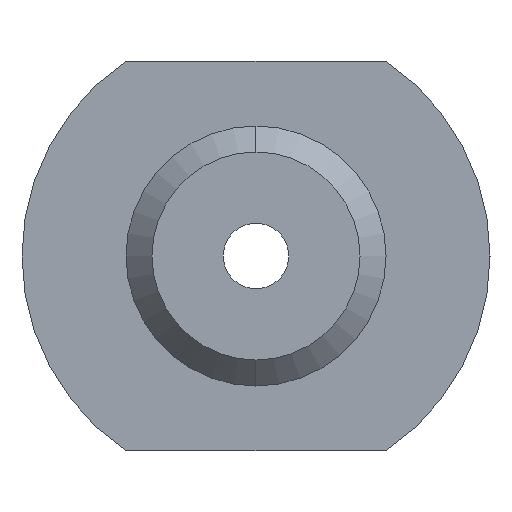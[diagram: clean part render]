
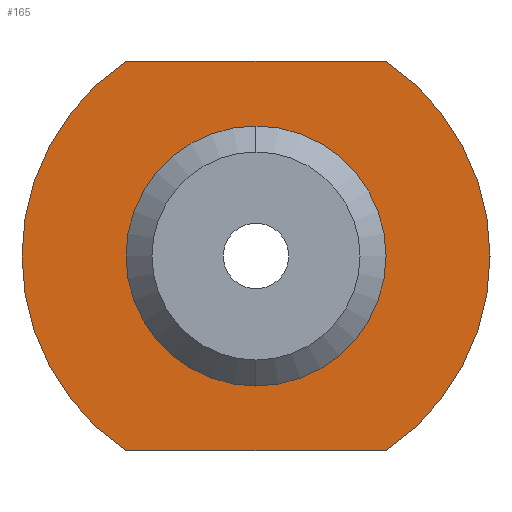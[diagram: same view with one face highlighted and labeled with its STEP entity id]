
A CAD part, left-side view. The second image highlights one B-rep face of the part: STEP entity #165.
In plain terms, the highlighted planar face has unit normal (-1, 0, 0).
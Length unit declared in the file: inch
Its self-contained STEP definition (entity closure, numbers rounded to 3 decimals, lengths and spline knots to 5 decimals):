
#19 = EDGE_CURVE ( 'NONE', #880, #561, #277, .T. ) ;
#44 = FACE_OUTER_BOUND ( 'NONE', #410, .T. ) ;
#76 = VECTOR ( 'NONE', #724, 39.37008 ) ;
#80 = EDGE_CURVE ( 'NONE', #88, #799, #292, .T. ) ;
#88 = VERTEX_POINT ( 'NONE', #797 ) ;
#96 = CARTESIAN_POINT ( 'NONE',  ( 0., 0., 0. ) ) ;
#103 = DIRECTION ( 'NONE',  ( -1., 0., 0. ) ) ;
#119 = AXIS2_PLACEMENT_3D ( 'NONE', #96, #543, #944 ) ;
#126 = DIRECTION ( 'NONE',  ( 0., 0., 1. ) ) ;
#134 = CARTESIAN_POINT ( 'NONE',  ( 0., 0.12437, 0.1875 ) ) ;
#165 = ADVANCED_FACE ( 'NONE', ( #44, #977 ), #1060, .T. ) ;
#176 = ORIENTED_EDGE ( 'NONE', *, *, #906, .T. ) ;
#187 = DIRECTION ( 'NONE',  ( 0., -1., 0. ) ) ;
#241 = DIRECTION ( 'NONE',  ( 0., 0., 1. ) ) ;
#275 = CARTESIAN_POINT ( 'NONE',  ( 0., 0.12437, -0.1875 ) ) ;
#277 = LINE ( 'NONE', #1050, #450 ) ;
#278 = EDGE_CURVE ( 'NONE', #1062, #1077, #913, .T. ) ;
#292 = CIRCLE ( 'NONE', #896, 0.1065 ) ;
#336 = CIRCLE ( 'NONE', #119, 0.225 ) ;
#353 = AXIS2_PLACEMENT_3D ( 'NONE', #435, #103, #355 ) ;
#355 = DIRECTION ( 'NONE',  ( 0., 0., 1. ) ) ;
#399 = CARTESIAN_POINT ( 'NONE',  ( 0., 0., 0. ) ) ;
#410 = EDGE_LOOP ( 'NONE', ( #584, #716, #745, #176 ) ) ;
#435 = CARTESIAN_POINT ( 'NONE',  ( 0., 0., 0. ) ) ;
#450 = VECTOR ( 'NONE', #187, 39.37008 ) ;
#456 = DIRECTION ( 'NONE',  ( 0., 0., 1. ) ) ;
#472 = DIRECTION ( 'NONE',  ( -1., 0., 0. ) ) ;
#537 = EDGE_CURVE ( 'NONE', #561, #1062, #832, .T. ) ;
#543 = DIRECTION ( 'NONE',  ( -1., 0., 0. ) ) ;
#561 = VERTEX_POINT ( 'NONE', #957 ) ;
#584 = ORIENTED_EDGE ( 'NONE', *, *, #19, .T. ) ;
#607 = EDGE_CURVE ( 'NONE', #799, #88, #690, .T. ) ;
#610 = EDGE_LOOP ( 'NONE', ( #740, #836 ) ) ;
#621 = CARTESIAN_POINT ( 'NONE',  ( 0., 0., 0. ) ) ;
#634 = CARTESIAN_POINT ( 'NONE',  ( 0., -0.12437, 0.1875 ) ) ;
#647 = AXIS2_PLACEMENT_3D ( 'NONE', #908, #472, #241 ) ;
#690 = CIRCLE ( 'NONE', #1073, 0.1065 ) ;
#716 = ORIENTED_EDGE ( 'NONE', *, *, #537, .T. ) ;
#724 = DIRECTION ( 'NONE',  ( 0., 1., 0. ) ) ;
#733 = DIRECTION ( 'NONE',  ( -1., 0., 0. ) ) ;
#740 = ORIENTED_EDGE ( 'NONE', *, *, #607, .F. ) ;
#745 = ORIENTED_EDGE ( 'NONE', *, *, #278, .T. ) ;
#797 = CARTESIAN_POINT ( 'NONE',  ( 0., 0., -0.1065 ) ) ;
#799 = VERTEX_POINT ( 'NONE', #1089 ) ;
#832 = CIRCLE ( 'NONE', #353, 0.225 ) ;
#836 = ORIENTED_EDGE ( 'NONE', *, *, #80, .F. ) ;
#875 = DIRECTION ( 'NONE',  ( -1., 0., 0. ) ) ;
#880 = VERTEX_POINT ( 'NONE', #275 ) ;
#896 = AXIS2_PLACEMENT_3D ( 'NONE', #621, #875, #456 ) ;
#904 = CARTESIAN_POINT ( 'NONE',  ( 0., 0.12437, 0.1875 ) ) ;
#906 = EDGE_CURVE ( 'NONE', #1077, #880, #336, .T. ) ;
#908 = CARTESIAN_POINT ( 'NONE',  ( 0., 0.1065, 0. ) ) ;
#913 = LINE ( 'NONE', #134, #76 ) ;
#944 = DIRECTION ( 'NONE',  ( 0., 0., 1. ) ) ;
#957 = CARTESIAN_POINT ( 'NONE',  ( 0., -0.12437, -0.1875 ) ) ;
#977 = FACE_BOUND ( 'NONE', #610, .T. ) ;
#1050 = CARTESIAN_POINT ( 'NONE',  ( 0., -0.12437, -0.1875 ) ) ;
#1060 = PLANE ( 'NONE',  #647 ) ;
#1062 = VERTEX_POINT ( 'NONE', #634 ) ;
#1073 = AXIS2_PLACEMENT_3D ( 'NONE', #399, #733, #126 ) ;
#1077 = VERTEX_POINT ( 'NONE', #904 ) ;
#1089 = CARTESIAN_POINT ( 'NONE',  ( 0., 0., 0.1065 ) ) ;
